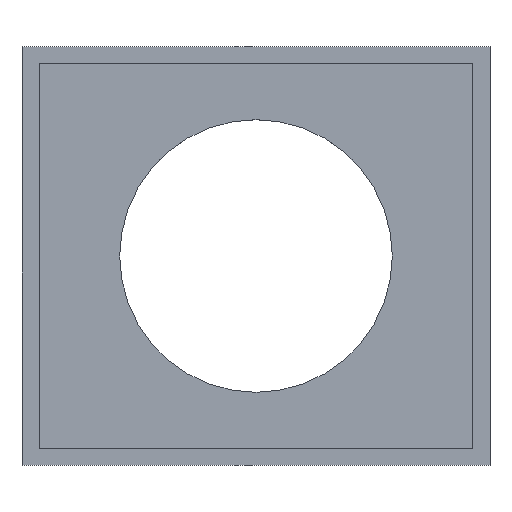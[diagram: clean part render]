
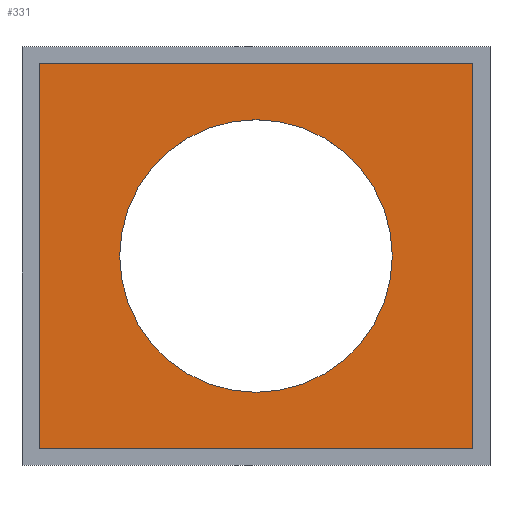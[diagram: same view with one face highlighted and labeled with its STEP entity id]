
A CAD part, top view. The second image highlights one B-rep face of the part: STEP entity #331.
In plain terms, the highlighted planar face has unit normal (0, 0, 1).
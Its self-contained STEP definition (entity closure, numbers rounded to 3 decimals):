
#215 = VERTEX_POINT('',#216);
#216 = CARTESIAN_POINT('',(26.4,-23.4,2.));
#222 = EDGE_CURVE('',#223,#215,#225,.T.);
#223 = VERTEX_POINT('',#224);
#224 = CARTESIAN_POINT('',(-26.4,-23.4,2.));
#225 = LINE('',#226,#227);
#226 = CARTESIAN_POINT('',(-26.4,-23.4,2.));
#227 = VECTOR('',#228,1.);
#228 = DIRECTION('',(1.,0.,0.));
#246 = EDGE_CURVE('',#215,#247,#249,.T.);
#247 = VERTEX_POINT('',#248);
#248 = CARTESIAN_POINT('',(26.4,23.4,2.));
#249 = LINE('',#250,#251);
#250 = CARTESIAN_POINT('',(26.4,-23.4,2.));
#251 = VECTOR('',#252,1.);
#252 = DIRECTION('',(0.,1.,0.));
#270 = EDGE_CURVE('',#271,#247,#273,.T.);
#271 = VERTEX_POINT('',#272);
#272 = CARTESIAN_POINT('',(-26.4,23.4,2.));
#273 = LINE('',#274,#275);
#274 = CARTESIAN_POINT('',(-26.4,23.4,2.));
#275 = VECTOR('',#276,1.);
#276 = DIRECTION('',(1.,0.,0.));
#294 = EDGE_CURVE('',#223,#271,#295,.T.);
#295 = LINE('',#296,#297);
#296 = CARTESIAN_POINT('',(-26.4,-23.4,2.));
#297 = VECTOR('',#298,1.);
#298 = DIRECTION('',(0.,1.,0.));
#310 = EDGE_CURVE('',#311,#311,#313,.T.);
#311 = VERTEX_POINT('',#312);
#312 = CARTESIAN_POINT('',(16.6,0.,2.));
#313 = CIRCLE('',#314,16.6);
#314 = AXIS2_PLACEMENT_3D('',#315,#316,#317);
#315 = CARTESIAN_POINT('',(0.,0.,2.));
#316 = DIRECTION('',(0.,0.,1.));
#317 = DIRECTION('',(1.,0.,0.));
#331 = ADVANCED_FACE('',(#332,#338),#341,.T.);
#332 = FACE_BOUND('',#333,.T.);
#333 = EDGE_LOOP('',(#334,#335,#336,#337));
#334 = ORIENTED_EDGE('',*,*,#294,.F.);
#335 = ORIENTED_EDGE('',*,*,#222,.T.);
#336 = ORIENTED_EDGE('',*,*,#246,.T.);
#337 = ORIENTED_EDGE('',*,*,#270,.F.);
#338 = FACE_BOUND('',#339,.T.);
#339 = EDGE_LOOP('',(#340));
#340 = ORIENTED_EDGE('',*,*,#310,.F.);
#341 = PLANE('',#342);
#342 = AXIS2_PLACEMENT_3D('',#343,#344,#345);
#343 = CARTESIAN_POINT('',(-26.4,-23.4,2.));
#344 = DIRECTION('',(0.,0.,1.));
#345 = DIRECTION('',(1.,0.,0.));
